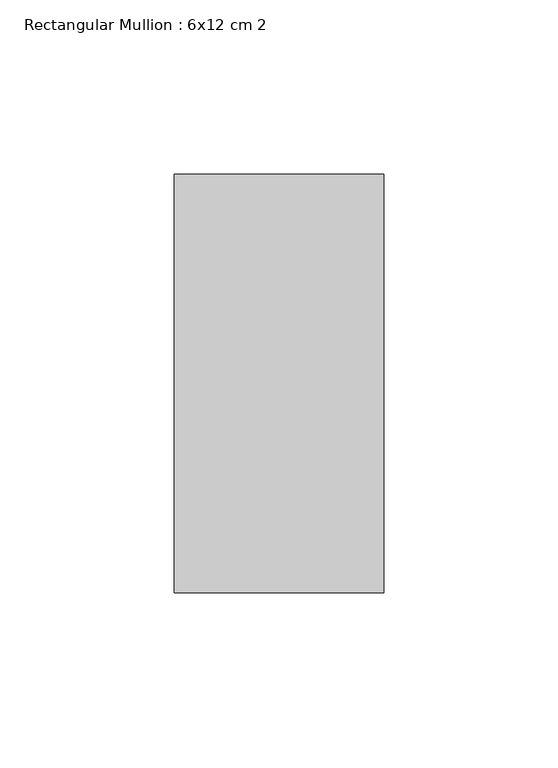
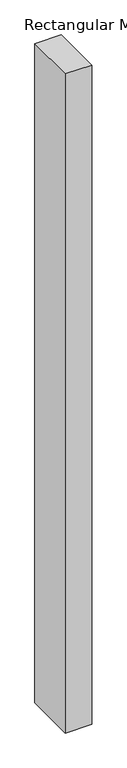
"""IFC4 building model written with IfcOpenShell, lengths in millimetres: member geometry, Rectangular Mullion : 6x12 cm 2."""

from ifc_helpers import new_model, si_unit, frame, origin, place, context, project, spatial, polyline, outline, extrude, source, transform, mapped, element, save


def rectangular_mullion_6x12_cm_2_544e9462(model_context):
    return source(origin(), model_context, "Body", "SweptSolid", [
        extrude(outline(polyline([(0.0, 205.0), (0.0, 85.0), (-60.0, 85.0), (-60.0, 205.0), (0.0, 205.0)])), frame((0.0, 0.0, -1587.5869025), z_axis=(0.0, 0.0, 1.0), x_axis=(1.0, 0.0, 0.0)), (0.0, 0.0, 1.0), 1587.5869025),
    ])


if __name__ == "__main__":
    model = new_model("IFC4")
    model_context = context("Model", 3, world=origin())
    ifc_project = project(units=[si_unit("LENGTHUNIT", "METRE", prefix="MILLI")], contexts=[model_context])
    site = spatial("IfcSite", under=ifc_project)
    building = spatial("IfcBuilding", under=site)
    placement = place(None, origin())
    rectangular_mullion_6x12_cm_2_shape = rectangular_mullion_6x12_cm_2_544e9462(model_context)
    element("IfcMember", 1, ObjectType="Rectangular Mullion : 6x12 cm 2", at=placement, inside=building, context=model_context, shape_type="MappedRepresentation", body=[
        mapped(rectangular_mullion_6x12_cm_2_shape, transform((0.0, 0.0, 0.0), x_axis=(1.0, 0.0, 0.0), y_axis=(0.0, 1.0, 0.0), z_axis=(0.0, 0.0, 1.0))),
    ])
    save(model, "model.ifc")
